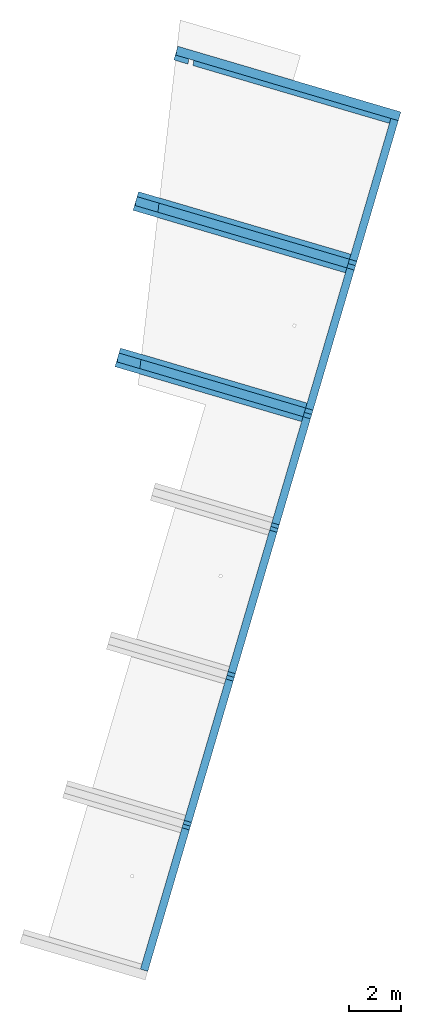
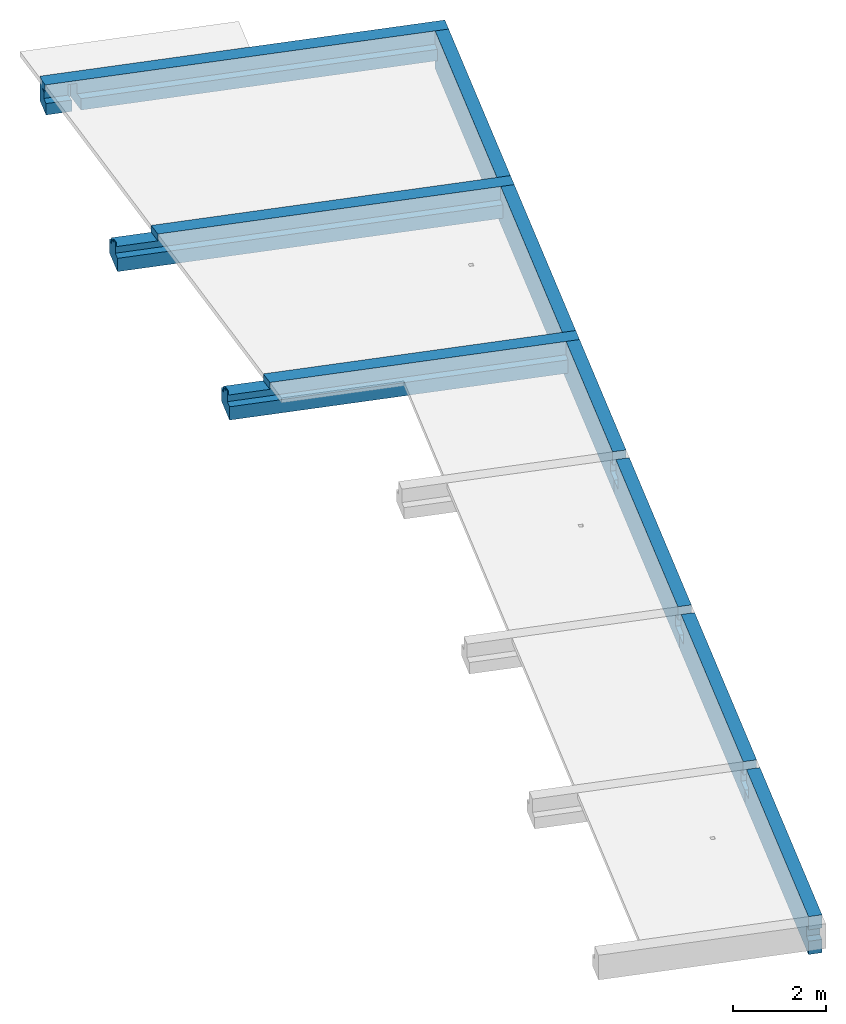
# One storey, part 2 of 2: 9 beams.
"""IFC2X3 building model written with IfcOpenShell, lengths in millimetres."""

from ifc_helpers import new_model, entity, si_unit, converted_unit, direction, frame, origin, place, context, subcontext, project, spatial, faceted_brep, material, type_object, element, save


model = new_model("IFC2X3")

# Units and contexts
model_context = context("Model", 3, precision=0.01, world=origin(), true_north=direction((6.123233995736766e-17, 1.0)))
body_context = subcontext(model_context, "Body", "Model", "MODEL_VIEW")
ifc_project = project(units=[si_unit("LENGTHUNIT", "METRE", prefix="MILLI"), si_unit("AREAUNIT", "SQUARE_METRE"), si_unit("VOLUMEUNIT", "CUBIC_METRE"), converted_unit("PLANEANGLEUNIT", "DEGREE", entity("IfcPlaneAngleMeasure", 0.017453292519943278), si_unit("PLANEANGLEUNIT", "RADIAN"), dimensions=[0, 0, 0, 0, 0, 0, 0])], contexts=[model_context])

# Site, building, storey
site_placement = place(None, origin())
site = spatial("IfcSite", under=ifc_project, at=site_placement, Name="SiteName", CompositionType="ELEMENT")
building_placement = place(site_placement, origin())
building = spatial("IfcBuilding", under=site, at=building_placement, Name="Building Name", CompositionType="ELEMENT")
storey_placement = place(building_placement, frame((0.0, 0.0, 540.0)))
storey = spatial("IfcBuildingStorey", under=building, at=storey_placement, Name="HAT", CompositionType="ELEMENT", Elevation=540.0000000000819)

# Beams
ifc_material = material(Name="Concrete - Cast-in-Place")
beam_type_1 = type_object("IfcBeamType", Name="Concrete-Rectangular-Beam:1000x300", PredefinedType="BEAM")
beam_1_placement = place(storey_placement, frame((-3690.4337200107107, 21840.477212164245, -870.0), z_axis=(0.0, 0.0, 1.0), x_axis=(0.28246537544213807, 0.9592774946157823, 0.0)))
element("IfcBeam", 1, at=beam_1_placement, inside=storey, type_object=beam_type_1, material=ifc_material, Name="Concrete-Rectangular-Beam:1000x300", ObjectType="Concrete-Rectangular-Beam:1000x300", context=body_context, shape_type="Brep", body=[
    faceted_brep([(5931.427172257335, -276.0639935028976, 0.0), (5931.427172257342, 23.936006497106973, 0.0), (5931.427172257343, 23.936006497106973, 350.0), (5931.427172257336, -276.0639935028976, 350.0), (81.28880330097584, 23.936006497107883, 0.0), (81.28880330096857, -276.06399350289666, 0.0), (81.2888033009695, -276.06399350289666, 350.0), (81.28880330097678, 23.936006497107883, 350.0), (81.28880330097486, 10.782363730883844, 1000.0), (81.28880330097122, -276.0639935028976, 1000.0), (5781.124379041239, -276.06399350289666, 1000.0), (5781.137985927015, 23.936006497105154, 1000.0), (81.28880330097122, 23.936006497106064, 1000.0), (5581.1243788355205, -276.06399350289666, 350.0), (5581.124378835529, -276.06399350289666, 650.0), (5781.124379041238, -276.0639935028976, 650.0), (81.2888033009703, -276.06399350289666, 650.0), (281.27579322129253, -276.0639935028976, 650.0), (281.275793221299, -276.06399350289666, 350.0), (281.2894001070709, 23.936006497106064, 350.0), (281.2894001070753, 23.936006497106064, 650.0), (81.28880330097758, 23.936006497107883, 650.0), (5781.137985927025, 23.936006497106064, 650.0), (5581.1379857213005, 23.936006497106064, 650.0), (5581.1379857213, 23.936006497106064, 350.0), (81.28880330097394, 10.782363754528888, 650.0)], [[[0, 1, 2, 3]], [[4, 5, 6, 7]], [[8, 9, 10, 11, 12]], [[5, 0, 3, 13, 14, 15, 10, 9, 16, 17, 18, 6]], [[1, 0, 5, 4]], [[1, 4, 7, 19, 20, 21, 12, 11, 22, 23, 24, 2]], [[18, 19, 7, 6]], [[19, 18, 17, 20]], [[20, 17, 16, 25, 21]], [[12, 21, 25, 16, 9, 8]], [[24, 13, 3, 2]], [[13, 24, 23, 14]], [[14, 23, 22, 15]], [[15, 22, 11, 10]]]),
])
beam_2_placement = place(storey_placement, frame((-2037.7621917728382, 27452.157108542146, -870.0), z_axis=(0.0, 0.0, 1.0), x_axis=(0.28246537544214, 0.9592774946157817, 0.0)))
element("IfcBeam", 2, at=beam_2_placement, inside=storey, type_object=beam_type_1, material=ifc_material, Name="Concrete-Rectangular-Beam:1000x300", ObjectType="Concrete-Rectangular-Beam:1000x300", context=body_context, shape_type="Brep", body=[
    faceted_brep([(6081.150467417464, -276.0639935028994, 0.0), (6081.150467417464, 23.936006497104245, 0.0), (6081.150467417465, 23.936006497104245, 350.0), (6081.150467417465, -276.0639935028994, 350.0), (81.28880330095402, 23.936006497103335, 0.0), (81.28880330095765, -276.0639935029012, 0.0), (81.28880330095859, -276.0639935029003, 350.0), (81.28880330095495, 23.936006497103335, 350.0), (231.15725891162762, 23.936006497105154, 1000.0), (231.14365202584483, -276.0639935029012, 1000.0), (5931.301305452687, -276.0639935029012, 1000.0), (5931.314912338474, 23.936006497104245, 1000.0), (5731.301305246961, -276.0639935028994, 350.0), (5731.301305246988, -276.0639935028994, 650.0), (5931.301305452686, -276.0639935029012, 650.0), (231.14365202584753, -276.0639935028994, 650.0), (431.14365223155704, -276.0639935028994, 650.0), (431.1436522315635, -276.0639935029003, 350.0), (431.1572591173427, 23.936006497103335, 350.0), (431.1572591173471, 23.936006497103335, 650.0), (231.15725891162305, 23.936006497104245, 650.0), (5931.314912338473, 23.936006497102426, 650.0), (5731.3149121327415, 23.936006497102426, 650.0), (5731.314912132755, 23.936006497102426, 350.0)], [[[0, 1, 2, 3]], [[4, 5, 6, 7]], [[8, 9, 10, 11]], [[5, 0, 3, 12, 13, 14, 10, 9, 15, 16, 17, 6]], [[1, 0, 5, 4]], [[1, 4, 7, 18, 19, 20, 8, 11, 21, 22, 23, 2]], [[15, 20, 19, 16]], [[16, 19, 18, 17]], [[17, 18, 7, 6]], [[20, 15, 9, 8]], [[23, 12, 3, 2]], [[12, 23, 22, 13]], [[13, 22, 21, 14]], [[14, 21, 11, 10]]]),
])
beam_3_placement = place(storey_placement, frame((-342.6739928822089, 33207.59072456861, -870.0), z_axis=(0.0, 0.0, 1.0), x_axis=(0.28246537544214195, 0.959277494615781, 0.0)))
element("IfcBeam", 3, at=beam_3_placement, inside=storey, type_object=beam_type_1, material=ifc_material, Name="Concrete-Rectangular-Beam:1000x300", ObjectType="Concrete-Rectangular-Beam:1000x300", context=body_context, shape_type="Brep", body=[
    faceted_brep([(6081.28877549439, -276.0639935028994, 0.0), (6081.288775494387, 23.936006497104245, 0.0), (6081.288775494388, 23.936006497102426, 350.0), (6081.288775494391, -276.0639935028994, 350.0), (81.28880330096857, 23.936006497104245, 0.0), (81.28880330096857, -276.0639935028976, 0.0), (81.2888033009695, -276.0639935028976, 350.0), (81.2888033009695, 23.936006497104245, 350.0), (5931.281971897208, -276.0639935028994, 1000.0), (5931.295578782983, 23.936006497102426, 1000.0), (231.45323269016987, 23.936006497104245, 1000.0), (231.43962580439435, -276.0639935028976, 1000.0), (5731.281971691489, -276.0639935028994, 350.0), (5731.281971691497, -276.0639935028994, 650.0), (5931.281971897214, -276.0639935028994, 650.0), (231.43962580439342, -276.0639935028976, 650.0), (431.4396260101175, -276.0639935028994, 650.0), (431.4396260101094, -276.0639935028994, 350.0), (431.45323289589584, 23.936006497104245, 350.0), (431.45323289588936, 23.936006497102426, 650.0), (231.45323269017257, 23.936006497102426, 650.0), (5931.29557878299, 23.936006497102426, 650.0), (5731.295578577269, 23.936006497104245, 650.0), (5731.295578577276, 23.936006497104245, 350.0)], [[[0, 1, 2, 3]], [[4, 5, 6, 7]], [[8, 9, 10, 11]], [[5, 0, 3, 12, 13, 14, 8, 11, 15, 16, 17, 6]], [[1, 0, 5, 4]], [[1, 4, 7, 18, 19, 20, 10, 9, 21, 22, 23, 2]], [[23, 12, 3, 2]], [[12, 23, 22, 13]], [[13, 22, 21, 14]], [[14, 21, 9, 8]], [[15, 20, 19, 16]], [[16, 19, 18, 17]], [[17, 18, 7, 6]], [[20, 15, 11, 10]]]),
])
beam_4_placement = place(storey_placement, frame((1352.3793084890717, 38963.17879946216, -870.0), z_axis=(0.0, 0.0, 1.0), x_axis=(0.28246537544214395, 0.9592774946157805, 0.0)))
element("IfcBeam", 4, at=beam_4_placement, inside=storey, type_object=beam_type_1, material=ifc_material, Name="Concrete-Rectangular-Beam:1000x300", ObjectType="Concrete-Rectangular-Beam:1000x300", context=body_context, shape_type="Brep", body=[
    faceted_brep([(4681.160665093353, -276.0639935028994, 0.0), (4681.160665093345, 23.936006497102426, 0.0), (4681.160665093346, 23.936006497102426, 300.0), (4681.160665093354, -276.0639935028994, 300.0), (81.28880330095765, 23.936006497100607, 0.0), (81.28880330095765, -276.0639935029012, 0.0), (81.28880330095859, -276.0639935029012, 350.0), (81.28880330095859, 23.936006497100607, 350.0), (4506.153861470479, -276.0639935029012, 1000.0), (4506.167468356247, 23.936006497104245, 1000.0), (231.29559105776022, 23.936006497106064, 1000.0), (231.2819841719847, -276.0639935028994, 1000.0), (4306.153861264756, -276.0639935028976, 300.0), (4306.153861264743, -276.0639935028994, 650.0), (4506.153861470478, -276.0639935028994, 650.0), (231.28198417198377, -276.0639935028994, 650.0), (431.28198437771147, -276.0639935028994, 650.0), (431.28198437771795, -276.0639935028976, 350.0), (431.2955912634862, 23.936006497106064, 350.0), (431.295591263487, 23.936006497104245, 650.0), (231.29559105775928, 23.936006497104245, 650.0), (4506.167468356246, 23.936006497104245, 650.0), (4306.167468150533, 23.936006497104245, 650.0), (4306.167468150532, 23.936006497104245, 300.0)], [[[0, 1, 2, 3]], [[4, 5, 6, 7]], [[8, 9, 10, 11]], [[5, 0, 3, 12, 13, 14, 8, 11, 15, 16, 17, 6]], [[1, 0, 5, 4]], [[1, 4, 7, 18, 19, 20, 10, 9, 21, 22, 23, 2]], [[3, 2, 23, 12]], [[13, 12, 23, 22]], [[14, 13, 22, 21]], [[9, 8, 14, 21]], [[15, 20, 19, 16]], [[16, 19, 18, 17]], [[17, 18, 7, 6]], [[20, 15, 11, 10]]]),
])
beam_5_placement = place(storey_placement, frame((2651.8878238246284, 43375.68648169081, -870.0), z_axis=(0.0, 0.0, 1.0), x_axis=(0.2824653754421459, 0.9592774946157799, 0.0)))
element("IfcBeam", 5, at=beam_5_placement, inside=storey, type_object=beam_type_1, material=ifc_material, Name="Concrete-Rectangular-Beam:1000x300", ObjectType="Concrete-Rectangular-Beam:1000x300", context=body_context, shape_type="Brep", body=[
    faceted_brep([(6081.276486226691, -276.06399350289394, 0.0), (6081.276486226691, 23.936006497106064, 0.0), (6081.276486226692, 23.936006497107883, 300.0), (6081.276486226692, -276.06399350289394, 300.0), (81.28880330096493, 23.936006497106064, 0.0), (81.28880330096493, -276.0639935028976, 0.0), (81.28880330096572, -276.0639935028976, 300.0), (81.28880330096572, 23.936006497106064, 300.0), (256.2819841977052, 23.936006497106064, 1000.0), (256.26837731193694, -276.06399350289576, 1000.0), (5906.269682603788, -276.0639935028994, 1000.0), (5906.283289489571, 23.936006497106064, 1000.0), (5706.269682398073, -276.06399350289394, 300.0), (5706.269682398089, -276.06399350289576, 650.0), (5906.269682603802, -276.06399350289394, 650.0), (256.26837731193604, -276.06399350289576, 650.0), (456.26837751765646, -276.06399350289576, 650.0), (456.26837751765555, -276.06399350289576, 300.0), (456.28198440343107, 23.936006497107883, 300.0), (456.2819844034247, 23.936006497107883, 650.0), (256.28198419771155, 23.936006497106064, 650.0), (5906.28328948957, 23.936006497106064, 650.0), (5706.283289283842, 23.936006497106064, 650.0), (5706.283289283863, 23.936006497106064, 300.0)], [[[0, 1, 2, 3]], [[4, 5, 6, 7]], [[8, 9, 10, 11]], [[5, 0, 3, 12, 13, 14, 10, 9, 15, 16, 17, 6]], [[1, 0, 5, 4]], [[1, 4, 7, 18, 19, 20, 8, 11, 21, 22, 23, 2]], [[16, 15, 20, 19]], [[17, 16, 19, 18]], [[7, 6, 17, 18]], [[9, 8, 20, 15]], [[23, 12, 3, 2]], [[12, 23, 22, 13]], [[13, 22, 21, 14]], [[14, 21, 11, 10]]]),
])
beam_6_placement = place(storey_placement, frame((4346.972460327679, 49131.25251514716, -870.0), z_axis=(0.0, 0.0, 1.0), x_axis=(0.28246537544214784, 0.9592774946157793, 0.0)))
element("IfcBeam", 6, at=beam_6_placement, inside=storey, type_object=beam_type_1, material=ifc_material, Name="Concrete-Rectangular-Beam:1000x300", ObjectType="Concrete-Rectangular-Beam:1000x300", context=body_context, shape_type="Brep", body=[
    faceted_brep([(5931.551325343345, -276.06399350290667, 0.0), (5931.551325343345, 23.936006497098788, 0.0), (5931.5513253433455, 23.93600649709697, 350.0), (5931.5513253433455, -276.06399350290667, 350.0), (81.28880330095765, 23.936006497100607, 0.0), (81.28880330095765, -276.06399350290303, 0.0), (81.28880330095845, -276.0639935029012, 300.0), (81.28880330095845, 23.936006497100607, 300.0), (5931.131805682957, -276.06399350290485, 1000.0), (5931.145412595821, 23.936006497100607, 1000.0), (256.2955929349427, 23.936006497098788, 1000.0), (256.2819860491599, -276.06399350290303, 1000.0), (5731.131805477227, -276.06399350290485, 350.0), (5731.131805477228, -276.06399350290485, 650.0), (5931.131805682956, -276.06399350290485, 650.0), (256.28198626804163, -276.06399350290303, 650.0), (456.2819862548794, -276.06399350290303, 650.0), (456.2819862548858, -276.06399350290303, 300.0), (456.2955931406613, 23.936006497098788, 300.0), (456.2955931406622, 23.936006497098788, 650.0), (256.2955929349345, 23.936006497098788, 650.0), (5931.145412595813, 23.936006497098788, 650.0), (5731.145412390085, 23.93600649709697, 650.0), (5731.1454123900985, 23.936006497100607, 350.0)], [[[0, 1, 2, 3]], [[4, 5, 6, 7]], [[8, 9, 10, 11]], [[5, 0, 3, 12, 13, 14, 8, 11, 15, 16, 17, 6]], [[1, 0, 5, 4]], [[1, 4, 7, 18, 19, 20, 10, 9, 21, 22, 23, 2]], [[9, 8, 14, 21]], [[3, 2, 23, 12]], [[13, 12, 23, 22]], [[14, 13, 22, 21]], [[15, 20, 19, 16]], [[16, 19, 18, 17]], [[17, 18, 7, 6]], [[20, 15, 11, 10]]]),
])
beam_type_2 = type_object("IfcBeamType", Name="Concrete-L-Beam:LB 520x550", PredefinedType="NOTDEFINED")
beam_7_placement = place(storey_placement, frame((-2394.820559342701, 54551.01809098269, -521.5952722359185), z_axis=(0.0, 0.0, 1.0), x_axis=(-0.9592646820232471, 0.28250888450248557, 0.0)))
element("IfcBeam", 7, at=beam_7_placement, inside=storey, type_object=beam_type_2, material=ifc_material, Name="Concrete-L-Beam:LB 520x550", ObjectType="Concrete-L-Beam:LB 520x550", context=body_context, shape_type="Brep", body=[
    faceted_brep([(717.6428805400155, -2436.7710446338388, 1.5952722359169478), (717.6428805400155, -2436.7710446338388, 301.5952722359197), (717.6428805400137, -2636.7710446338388, 301.5952722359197), (717.6428805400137, -2636.7710446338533, 471.59527223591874), (717.6428805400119, -2811.7710446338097, 471.59527223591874), (717.6428805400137, -2811.771044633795, 651.595272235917), (717.6428805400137, -2986.7710446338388, 651.595272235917), (717.6428805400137, -2986.7710446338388, 1.5952722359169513), (687.3410838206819, -2636.7710446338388, 471.59527223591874), (179.90093848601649, -2636.7710446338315, 301.59527223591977), (179.90032040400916, -2636.7710446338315, 576.5952722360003), (-23.075119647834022, -2636.7710446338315, 576.5952722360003), (-23.075119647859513, -2636.7710446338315, 301.5952722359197), (-8274.105805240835, -2636.7710446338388, 301.5952722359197), (-8274.105805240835, -2636.7710446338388, 651.595272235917), (687.3410838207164, -2636.7710446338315, 651.595272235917), (-8274.105805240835, -2986.7710446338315, 651.595272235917), (-7736.449348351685, -2986.7710446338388, 3.3874485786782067), (-7726.71499553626, -2986.771044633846, 1.595272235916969), (37.52847379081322, -2986.7710446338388, 1.5952722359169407), (-8274.105805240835, -2986.7710446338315, 1.5952722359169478), (-7736.7793037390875, -2986.7710446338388, 1.5952723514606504), (-8274.105805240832, -2436.771044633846, 301.59527223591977), (-8274.105805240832, -2436.771044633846, 1.5952722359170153), (234.5993985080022, -2952.6675108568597, 1.5952722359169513), (145.27031366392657, -2436.7710446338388, 1.5952722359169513), (-2170.806235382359, -2986.204750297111, 1.5952722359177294), (-2157.028559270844, -2981.4849508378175, 1.5952722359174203), (-2143.250883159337, -2976.7651513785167, 1.5952722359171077), (-2122.6764052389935, -2969.71698091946, 1.5952722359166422), (-2080.115961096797, -2942.1890471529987, 1.5952722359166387), (-2045.707413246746, -2905.291306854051, 1.5952722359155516), (-2021.538625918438, -2861.262665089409, 1.5952722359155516), (-2009.076128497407, -2812.7747203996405, 1.5952722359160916), (-57.7057444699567, -2436.7710446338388, 1.5952722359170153), (-2009.0761285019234, -2762.769655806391, 1.5952722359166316), (-2021.5386259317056, -2714.281711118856, 1.5952722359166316), (-2045.7074132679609, -2670.253069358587, 1.5952722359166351), (-2080.1159611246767, -2633.3553290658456, 1.5952722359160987), (-2122.676405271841, -2605.8273953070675, 1.5952722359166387), (-2143.2508831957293, -2598.7792248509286, 1.5952722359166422), (-2157.028559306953, -2594.0594253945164, 1.5952722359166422), (-2170.8062354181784, -2589.339625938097, 1.5952722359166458), (-7726.71499557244, -2586.0066421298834, 1.595272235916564), (-7755.181101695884, -2593.210136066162, 1.5952722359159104), (-7773.647038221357, -2597.8830358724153, 1.5952722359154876), (-7816.470059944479, -2620.193638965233, 1.5952722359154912), (-7852.823641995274, -2651.7086837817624, 1.5952722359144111), (-7880.703963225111, -2690.6910509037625, 1.5952722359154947), (-7898.57425135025, -2734.992019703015, 1.5952722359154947), (-7905.449490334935, -2782.169706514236, 1.5952722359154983), (-7900.950714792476, -2829.6236620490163, 1.5952722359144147), (-7885.325898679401, -2874.738208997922, 1.5952722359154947), (-7859.436286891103, -2915.026619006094, 1.5952722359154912), (-7824.708923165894, -2948.26818194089, 1.5952722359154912), (-7783.05799097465, -2972.6306121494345, 1.595272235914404), (-7759.918647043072, -2979.7008283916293, 1.5952722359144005), (145.27031366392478, -2436.7710446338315, 301.5952722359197), (-57.70574446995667, -2436.771044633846, 301.59527223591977), (37.53182133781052, -2986.79037750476, 576.5952722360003), (234.59939850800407, -2952.6675108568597, 576.5952722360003), (-7807.473483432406, -2616.102114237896, 16.46359005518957), (-7841.214445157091, -2643.6781870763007, 22.675585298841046), (-7887.502673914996, -2717.4510607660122, 31.1976380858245), (-7868.314996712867, -2677.9990596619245, 27.66502510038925), (-7897.876585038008, -2760.1798984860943, 33.10756250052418), (-7756.340142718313, -2593.4633876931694, 7.049511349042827), (-7768.67824364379, -2596.568927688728, 9.32105964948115), (-7757.166829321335, -2980.435489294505, 7.201711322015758), (-7898.949657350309, -2804.177677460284, 33.305124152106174), (-7890.671416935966, -2847.377002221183, 31.781030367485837), (-7873.4303587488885, -2887.7478556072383, 28.606806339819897), (-7815.679943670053, -2952.6357008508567, 17.97446851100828), (-7848.035796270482, -2923.392738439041, 23.93145349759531), (-7777.884309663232, -2974.0999340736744, 11.015973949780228), (-2095.4093288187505, -2623.8091973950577, 16.56210248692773), (-2064.598594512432, -2652.2070194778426, 22.678255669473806), (-2023.3889372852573, -2725.192319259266, 30.858670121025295), (-2014.776875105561, -2766.6052309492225, 32.56822663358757), (-2014.7767405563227, -2808.937836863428, 32.56825334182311), (-2040.2396781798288, -2686.498803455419, 27.513676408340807), (-2131.3319022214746, -2602.544370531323, 9.431212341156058), (-2143.83771926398, -2598.360990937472, 6.948717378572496), (-2156.3435363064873, -2594.177611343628, 4.466222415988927), (-2143.838055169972, -2977.18355480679, 6.94865069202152), (-2131.3325839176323, -2973.0003173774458, 9.431077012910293), (-2156.34352642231, -2981.366792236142, 4.4662243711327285), (-2023.3885234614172, -2850.350755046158, 30.85875226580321), (-2040.2389567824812, -2889.0442951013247, 27.513819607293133), (-2064.5975255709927, -2923.336142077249, 22.678467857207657), (-2095.407846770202, -2951.7340758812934, 16.56239667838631)], [[[0, 1, 2, 3, 4, 5, 6, 7]], [[8, 3, 2, 9, 10, 11, 12, 13, 14, 15]], [[16, 6, 5, 15, 14]], [[17, 18, 19, 7, 6, 16, 20, 21]], [[22, 23, 20, 16, 14, 13]], [[24, 25, 0, 7, 19]], [[19, 26, 27]], [[19, 27, 28]], [[19, 28, 29]], [[30, 19, 29]], [[19, 30, 31]], [[19, 31, 32]], [[19, 32, 33]], [[33, 34, 19]], [[34, 33, 35]], [[34, 35, 36]], [[34, 36, 37]], [[37, 38, 34]], [[39, 34, 38]], [[34, 39, 40]], [[34, 40, 41]], [[34, 41, 42]], [[42, 26, 18]], [[42, 18, 43]], [[23, 42, 43]], [[23, 43, 44]], [[23, 44, 45]], [[45, 46, 23]], [[47, 23, 46]], [[23, 47, 48]], [[49, 23, 48]], [[20, 23, 49]], [[50, 20, 49]], [[50, 51, 20]], [[20, 51, 52]], [[20, 52, 53]], [[20, 53, 54]], [[54, 55, 20]], [[20, 55, 56]], [[42, 23, 34]], [[1, 0, 25, 57]], [[22, 58, 34, 23]], [[9, 2, 1, 57]], [[13, 12, 58, 22]], [[58, 12, 11, 59, 19, 34]], [[9, 57, 25, 24, 60]], [[10, 9, 60]], [[45, 61, 46]], [[46, 62, 47]], [[49, 48, 63]], [[64, 48, 47]], [[50, 49, 65]], [[45, 44, 43, 66, 67]], [[45, 67, 61]], [[49, 63, 65]], [[47, 62, 64]], [[48, 64, 63]], [[62, 46, 61]], [[56, 68, 21]], [[65, 69, 50]], [[52, 51, 70]], [[52, 71, 53]], [[55, 54, 72]], [[73, 54, 53]], [[68, 17, 21]], [[51, 69, 70]], [[52, 70, 71]], [[54, 73, 72]], [[68, 56, 74]], [[74, 55, 72]], [[73, 53, 71]], [[56, 55, 74]], [[50, 69, 51]], [[18, 17, 68, 74, 72, 73, 71, 70, 69, 65, 63, 64, 62, 61, 67, 66, 43]], [[38, 75, 39]], [[37, 76, 38]], [[77, 36, 35]], [[78, 35, 79]], [[37, 36, 80]], [[77, 35, 78]], [[81, 82, 83, 42, 41, 40, 39]], [[75, 81, 39]], [[84, 85, 29, 28, 27, 26, 86]], [[80, 76, 37]], [[77, 80, 36]], [[75, 38, 76]], [[33, 32, 87]], [[88, 87, 32]], [[33, 87, 79]], [[89, 31, 30]], [[32, 31, 88]], [[90, 30, 29]], [[89, 88, 31]], [[85, 90, 29]], [[89, 30, 90]], [[33, 79, 35]], [[75, 76, 80, 77, 78, 79, 87, 88, 89, 90, 85, 84, 86, 26, 42, 83, 82, 81]], [[18, 26, 19]], [[4, 3, 8]], [[15, 5, 4, 8]], [[10, 60, 59, 11]], [[60, 19, 59]], [[19, 60, 24]], [[20, 56, 21]]]),
])
beam_type_3 = type_object("IfcBeamType", Name="DLB:DLB 570x750", PredefinedType="NOTDEFINED")
beam_8_placement = place(storey_placement, frame((-4670.808890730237, 43015.942631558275, -570.0), z_axis=(0.0, 0.0, 1.0), x_axis=(-0.9592646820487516, 0.28250888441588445, 0.0)))
element("IfcBeam", 8, at=beam_8_placement, inside=storey, type_object=beam_type_3, material=ifc_material, Name="DLB:DLB 570x750", ObjectType="DLB:DLB 570x750", context=body_context, shape_type="Brep", body=[
    faceted_brep([(624.3806822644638, -2670.097348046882, 350.0), (624.3806822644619, -2870.0973480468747, 350.0), (624.3806822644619, -2870.0973480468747, 0.0), (624.3806822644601, -2120.0973480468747, 0.0), (624.3806822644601, -2120.0973480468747, 350.0), (624.3806822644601, -2320.097348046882, 350.0), (624.3806822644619, -2320.0973480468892, 625.0), (624.3806822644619, -2495.097348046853, 625.0), (624.3806822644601, -2495.09734804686, 520.0), (624.3806822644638, -2670.097348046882, 520.0), (-7198.83380903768, -2670.0973480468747, 350.0), (-7198.83380903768, -2670.0973480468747, 700.0), (-7198.83380903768, -2320.0973480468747, 700.0), (-7198.83380903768, -2320.0973480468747, 350.0), (-7198.83380903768, -2120.097348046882, 350.0), (-7198.83380903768, -2120.097348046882, 0.0), (-7198.833809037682, -2870.097348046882, 0.0), (-7198.833809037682, -2870.097348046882, 350.0), (-319.3133760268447, -2320.097348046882, 700.0), (-319.31337602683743, -2320.097348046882, 520.0), (594.0788855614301, -2320.0973480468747, 520.0), (594.0788855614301, -2320.0973480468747, 625.0), (-258.7097826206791, -2670.097348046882, 520.0), (-258.70978262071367, -2670.097348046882, 700.0)], [[[0, 1, 2, 3, 4, 5, 6, 7, 8, 9]], [[10, 11, 12, 13, 14, 15, 16, 17]], [[1, 0, 10, 17]], [[2, 1, 17, 16]], [[3, 2, 16, 15]], [[4, 3, 15, 14]], [[5, 4, 14, 13]], [[13, 12, 18, 19, 20, 21, 6, 5]], [[11, 10, 0, 9, 22, 23]], [[8, 20, 19, 22, 9]], [[20, 8, 7, 21]], [[19, 18, 23, 22]], [[12, 11, 23, 18]], [[7, 6, 21]]]),
])
beam_9_placement = place(storey_placement, frame((-3972.3534917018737, 48771.52532524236, -570.0), z_axis=(0.0, 0.0, 1.0), x_axis=(-0.9592646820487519, 0.2825088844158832, 0.0)))
element("IfcBeam", 9, at=beam_9_placement, inside=storey, type_object=beam_type_3, material=ifc_material, Name="DLB:DLB 570x750", ObjectType="DLB:DLB 570x750", context=body_context, shape_type="Brep", body=[
    faceted_brep([(707.3000016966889, -2951.6515892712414, 350.0), (707.3000016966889, -3151.6515892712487, 350.0), (707.3000016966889, -3151.6515892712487, 0.0), (707.3000016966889, -2401.6515892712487, 0.0), (707.3000016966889, -2401.6515892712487, 350.0), (707.3000016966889, -2601.6515892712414, 350.0), (707.3000016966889, -2601.651589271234, 625.0), (707.3000016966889, -2776.651589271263, 625.0), (707.3000016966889, -2776.6515892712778, 520.0), (707.3000016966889, -2951.6515892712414, 520.0), (-8154.856980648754, -2951.651589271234, 350.0), (-8154.856980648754, -2951.651589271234, 700.0), (-8154.856980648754, -2601.6515892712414, 700.0), (-8154.856980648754, -2601.6515892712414, 350.0), (-8154.856980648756, -2401.651589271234, 350.0), (-8154.856980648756, -2401.651589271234, 0.0), (-8154.856980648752, -3151.6515892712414, 0.0), (-8154.856980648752, -3151.6515892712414, 350.0), (-236.39405659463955, -2601.6515892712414, 700.0), (-236.39405659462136, -2601.6515892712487, 520.0), (676.9982049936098, -2601.6515892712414, 520.0), (676.9982049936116, -2601.6515892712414, 625.0), (-175.79046318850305, -2951.6515892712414, 520.0), (-175.7904631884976, -2951.6515892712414, 700.0)], [[[0, 1, 2, 3, 4, 5, 6, 7, 8, 9]], [[10, 11, 12, 13, 14, 15, 16, 17]], [[1, 0, 10, 17]], [[2, 1, 17, 16]], [[3, 2, 16, 15]], [[4, 3, 15, 14]], [[5, 4, 14, 13]], [[13, 12, 18, 19, 20, 21, 6, 5]], [[11, 10, 0, 9, 22, 23]], [[8, 20, 19, 22, 9]], [[19, 18, 23, 22]], [[20, 8, 7, 21]], [[12, 11, 23, 18]], [[7, 6, 21]]]),
])

save(model, "model.ifc")
